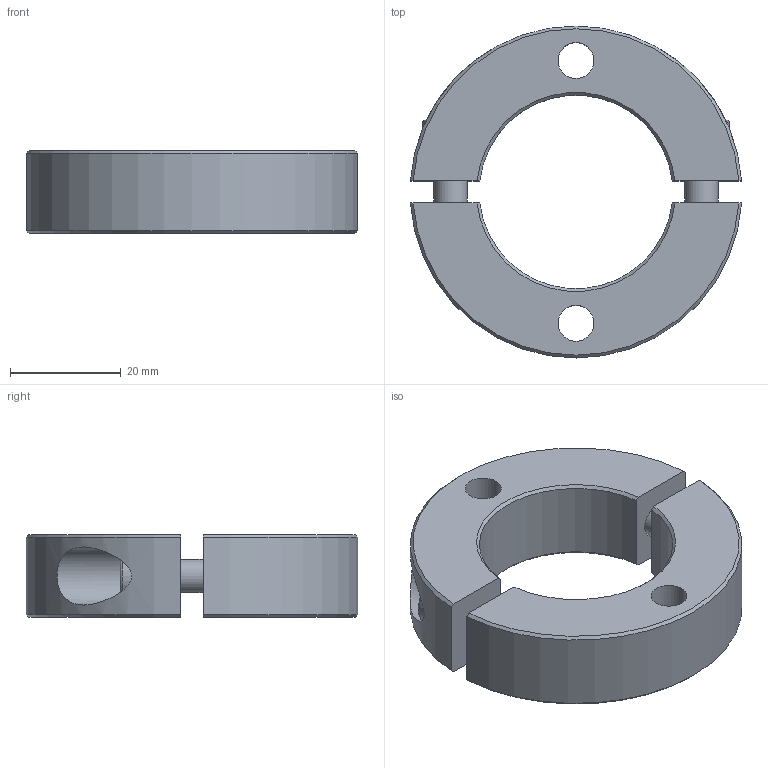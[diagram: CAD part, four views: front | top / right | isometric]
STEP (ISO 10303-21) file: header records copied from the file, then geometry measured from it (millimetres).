
FILE_DESCRIPTION( ( 'STEP AP203' ), '1' );
FILE_NAME( 'C:/Temp/Ganter_Step_05_03_2020/data/3_2/gn7072_2/Split Stainless Steel-Set collar GN 7072.2-60-B35-NI-A.stp', '2020-03-13T05:40:54', ( 'License CC BY-ND 4.0' ), ( 'CADENAS' ), ' ', 'PARTsolutions', ' ' );
FILE_SCHEMA( ( 'CONFIG_CONTROL_DESIGN' ) );
Length unit declared in the file: millimetre
Products named in the file (1): _Split Stainless Steel-Set collar GN 7072.2-60-B35-NI-A
Bounding box: 59.87 x 60 x 15 mm (x, y, z)
Volume: 24254.1 mm3; surface area: 10424.4 mm2
Topology: 1 solids, 1 shells, 52 faces, 124 edges, 84 vertices
Faces by surface type: plane 28, cylinder 14, cone 8, torus 2
Full cylindrical faces by diameter (mm): 6 x2, 6.4 x2, 6.5 x2, 10 x2, 10.5 x2
Entity records: 1633 total; most frequent: CARTESIAN_POINT 448, DIRECTION 230, ORIENTED_EDGE 212, EDGE_CURVE 106, AXIS2_PLACEMENT_3D 89, EDGE_LOOP 80, VERTEX_POINT 78, FACE_OUTER_BOUND 64
